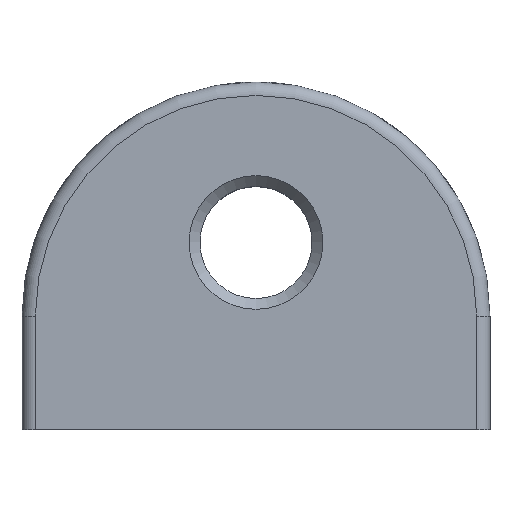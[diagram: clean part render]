
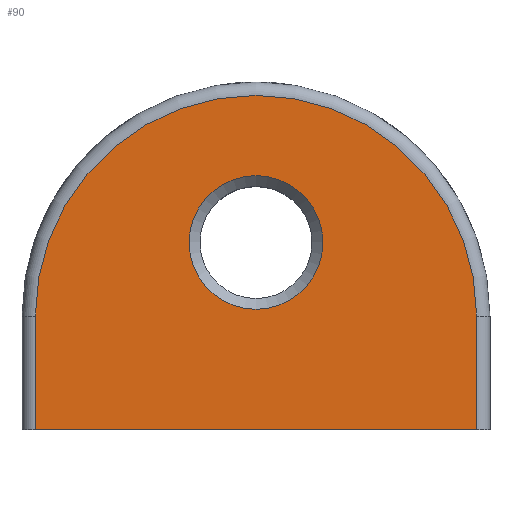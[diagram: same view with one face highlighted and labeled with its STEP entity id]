
A CAD part, top view. The second image highlights one B-rep face of the part: STEP entity #90.
In plain terms, the highlighted planar face has unit normal (0, 0, 1).
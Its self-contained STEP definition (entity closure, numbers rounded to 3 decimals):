
#90 = ADVANCED_FACE( '', ( #163, #164 ), #165, .F. );
#163 = FACE_BOUND( '', #289, .T. );
#164 = FACE_OUTER_BOUND( '', #290, .T. );
#165 = PLANE( '', #291 );
#289 = EDGE_LOOP( '', ( #479 ) );
#290 = EDGE_LOOP( '', ( #480, #481, #482, #483 ) );
#291 = AXIS2_PLACEMENT_3D( '', #484, #485, #486 );
#479 = ORIENTED_EDGE( '', *, *, #731, .T. );
#480 = ORIENTED_EDGE( '', *, *, #765, .F. );
#481 = ORIENTED_EDGE( '', *, *, #738, .F. );
#482 = ORIENTED_EDGE( '', *, *, #766, .T. );
#483 = ORIENTED_EDGE( '', *, *, #767, .T. );
#484 = CARTESIAN_POINT( '', ( -16.5, 8.5, 6. ) );
#485 = DIRECTION( '', ( 0., 0., -1. ) );
#486 = DIRECTION( '', ( -1., 0., 0. ) );
#731 = EDGE_CURVE( '', #835, #835, #836, .T. );
#738 = EDGE_CURVE( '', #848, #850, #851, .T. );
#765 = EDGE_CURVE( '', #850, #897, #898, .T. );
#766 = EDGE_CURVE( '', #848, #899, #900, .T. );
#767 = EDGE_CURVE( '', #899, #897, #901, .T. );
#835 = VERTEX_POINT( '', #1113 );
#836 = CIRCLE( '', #1114, 5. );
#848 = VERTEX_POINT( '', #1126 );
#850 = VERTEX_POINT( '', #1128 );
#851 = CIRCLE( '', #1129, 16.5 );
#897 = VERTEX_POINT( '', #1225 );
#898 = LINE( '', #1226, #1227 );
#899 = VERTEX_POINT( '', #1228 );
#900 = LINE( '', #1229, #1230 );
#901 = LINE( '', #1231, #1232 );
#1113 = CARTESIAN_POINT( '', ( -5., 14., 6. ) );
#1114 = AXIS2_PLACEMENT_3D( '', #1408, #1409, #1410 );
#1126 = CARTESIAN_POINT( '', ( -16.5, 8.5, 6. ) );
#1128 = CARTESIAN_POINT( '', ( 16.5, 8.5, 6. ) );
#1129 = AXIS2_PLACEMENT_3D( '', #1429, #1430, #1431 );
#1225 = CARTESIAN_POINT( '', ( 16.5, 0., 6. ) );
#1226 = CARTESIAN_POINT( '', ( 16.5, 8.5, 6. ) );
#1227 = VECTOR( '', #1479, 1000. );
#1228 = CARTESIAN_POINT( '', ( -16.5, 0., 6. ) );
#1229 = CARTESIAN_POINT( '', ( -16.5, 8.5, 6. ) );
#1230 = VECTOR( '', #1480, 1000. );
#1231 = CARTESIAN_POINT( '', ( -16.5, 0., 6. ) );
#1232 = VECTOR( '', #1481, 1000. );
#1408 = CARTESIAN_POINT( '', ( 0., 14., 6. ) );
#1409 = DIRECTION( '', ( 0., 0., -1. ) );
#1410 = DIRECTION( '', ( -1., 0., 0. ) );
#1429 = CARTESIAN_POINT( '', ( 0., 8.5, 6. ) );
#1430 = DIRECTION( '', ( 0., 0., -1. ) );
#1431 = DIRECTION( '', ( -1., 0., 0. ) );
#1479 = DIRECTION( '', ( 0., -1., 0. ) );
#1480 = DIRECTION( '', ( 0., -1., 0. ) );
#1481 = DIRECTION( '', ( 1., 0., 0. ) );
